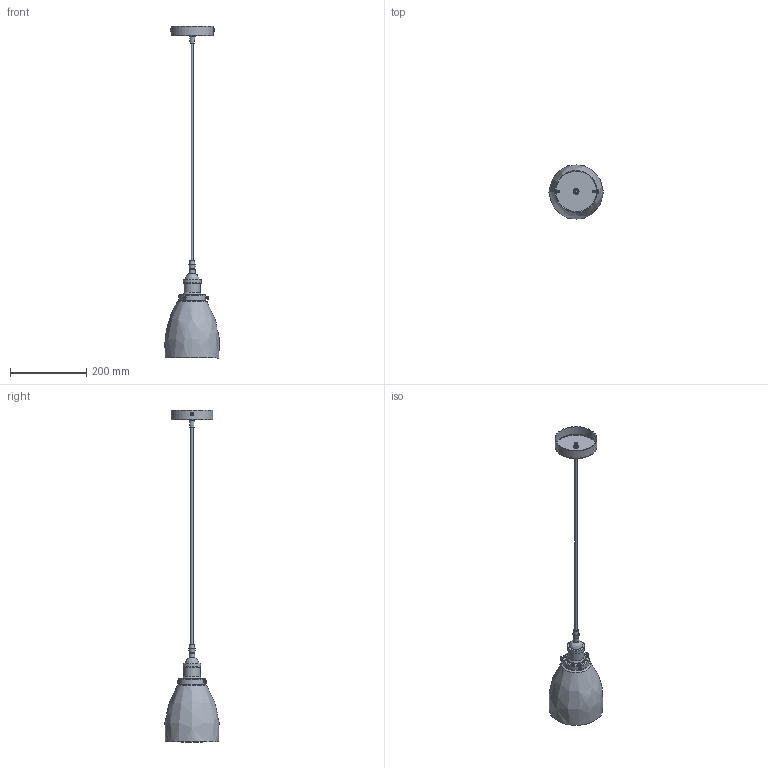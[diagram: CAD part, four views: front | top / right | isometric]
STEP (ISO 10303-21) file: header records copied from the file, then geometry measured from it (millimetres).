
FILE_DESCRIPTION( ( 'STEP AP203' ), '1' );
FILE_NAME( '//srvbf/BF Disegni/KATE/KATE A/KATE-A Sospensione 3D.stp', '2020-10-16T14:09:51', ( ' ' ), ( ' ' ), 'XStep 1.0', ' ', ' ' );
FILE_SCHEMA( ( 'CONFIG_CONTROL_DESIGN) ( )' ) );
Length unit declared in the file: metre
Products named in the file (17): Assem1; 1; 2; 3; 4; 5; 6; 7; 8; 9; 10; 11; 12; 13; 14; 15; 16
Bounding box: 142.54 x 141.64 x 869.72 mm (x, y, z)
Volume: 650951.9 mm3; surface area: 425450.4 mm2
Topology: 32 solids, 32 shells, 636 faces, 1512 edges, 968 vertices
Faces by surface type: cone 234, cylinder 200, plane 148, torus 48, bspline 6
Full cylindrical faces by diameter (mm): 3 x76, 4.5 x24, 6 x6, 7 x4, 8.8 x10, 9 x32, 10 x24, 15 x4, 39.4 x2, 42 x4, 47 x2, 48 x2, 50 x2, 68 x2, 70 x2, 108.4 x2, 110 x2
Entity records: 8277 total; most frequent: CARTESIAN_POINT 1792, DIRECTION 1310, ORIENTED_EDGE 744, AXIS2_PLACEMENT_3D 636, EDGE_LOOP 626, FACE_OUTER_BOUND 445, EDGE_CURVE 372, VERTEX_POINT 346
